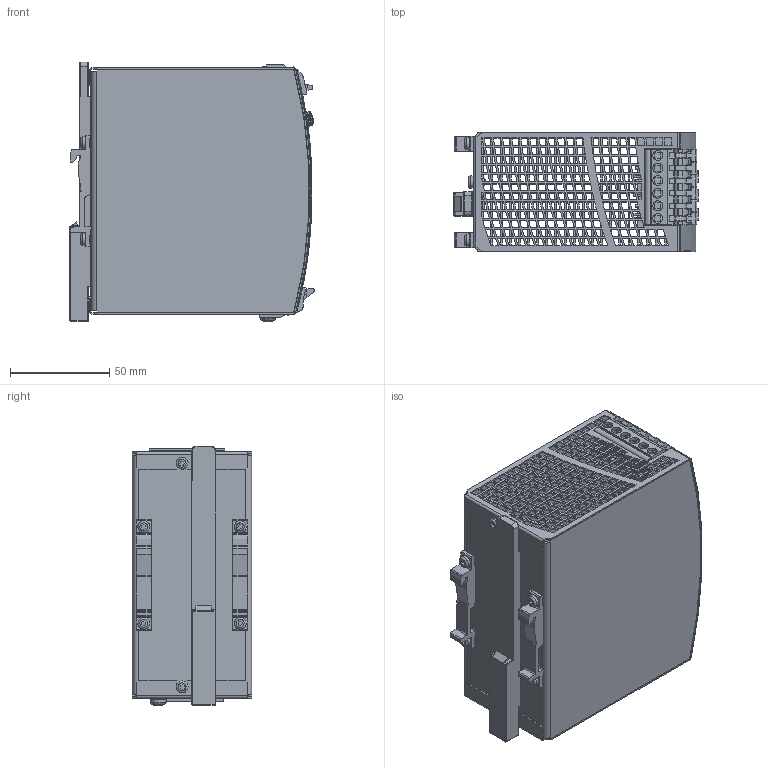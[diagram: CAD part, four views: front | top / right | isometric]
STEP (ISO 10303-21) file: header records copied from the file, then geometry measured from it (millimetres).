
FILE_DESCRIPTION((''),'2;1');
FILE_NAME('C:\Users\rahns\Desktop\Marketing\Proi2\SD1QS10-241-A1SR1_SC_2014-07-10.stp','2014-07-10T13:23:53',('rahns'),(''),'Autodesk Inventor 2009','Autodesk Inventor 2009','');
FILE_SCHEMA(('AUTOMOTIVE_DESIGN { 1 0 10303 214 1 1 1 1 }'));
Length unit declared in the file: millimetre
Products named in the file (14): 339; HOUSING BODY 339; HOUSING COVER 339; TERMINAL 3P R9,52; TERMINAL 6P R6,35; SCREW 4x8; T HOLDER; SCREW 3x6; SLIDER; POTENTIOMETER COVER; LED GN; LED RD; WASHER 4; FRONTFOIL 339
Assembly tree (19 placements, depth 2):
  339
    HOUSING BODY 339
    HOUSING COVER 339
    TERMINAL 3P R9,52
    TERMINAL 6P R6,35
    SCREW 4x8
    T HOLDER  x2
    SCREW 3x6  x6
    SLIDER
    POTENTIOMETER COVER
    LED GN
    LED RD
    WASHER 4
    FRONTFOIL 339
Bounding box: 122.95 x 60 x 130.77 mm (x, y, z)
Volume: 96709.5 mm3; surface area: 133150.7 mm2
Topology: 19 solids, 19 shells, 3122 faces, 8912 edges, 5926 vertices
Faces by surface type: plane 2536, cylinder 290, bspline 237, torus 26, cone 20, sphere 13
Full cylindrical faces by diameter (mm): 1.25 x9, 2.45 x2, 3 x6, 3.1 x4, 3.5 x2, 3.621 x1, 4 x1, 4.1 x1, 4.355 x1, 4.5 x1, 4.6 x2, 4.8 x1, 5 x6, 5.5 x3, 6 x6
Entity records: 107035 total; most frequent: CARTESIAN_POINT 27480, ORIENTED_EDGE 17040, DIRECTION 14356, EDGE_CURVE 8520, VECTOR 7194, LINE 7194, VERTEX_POINT 5687, EDGE_LOOP 4011
